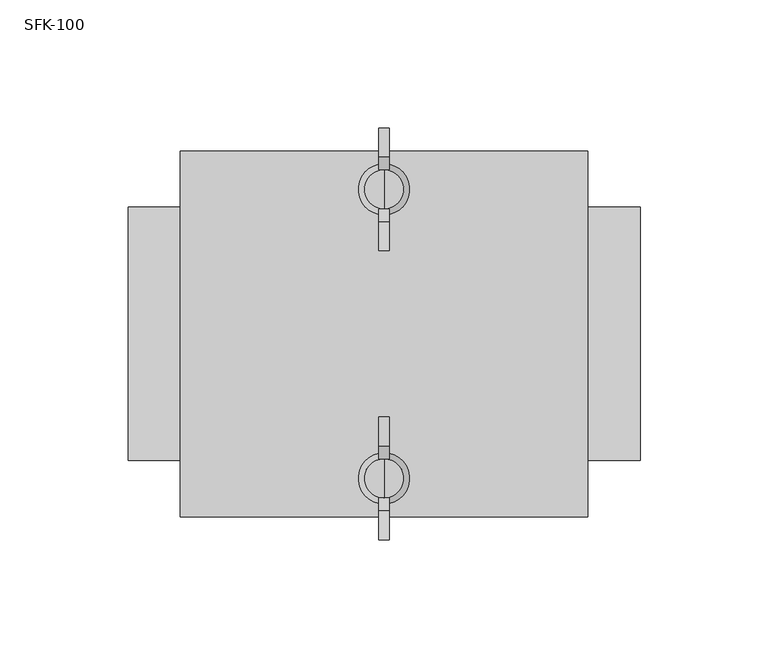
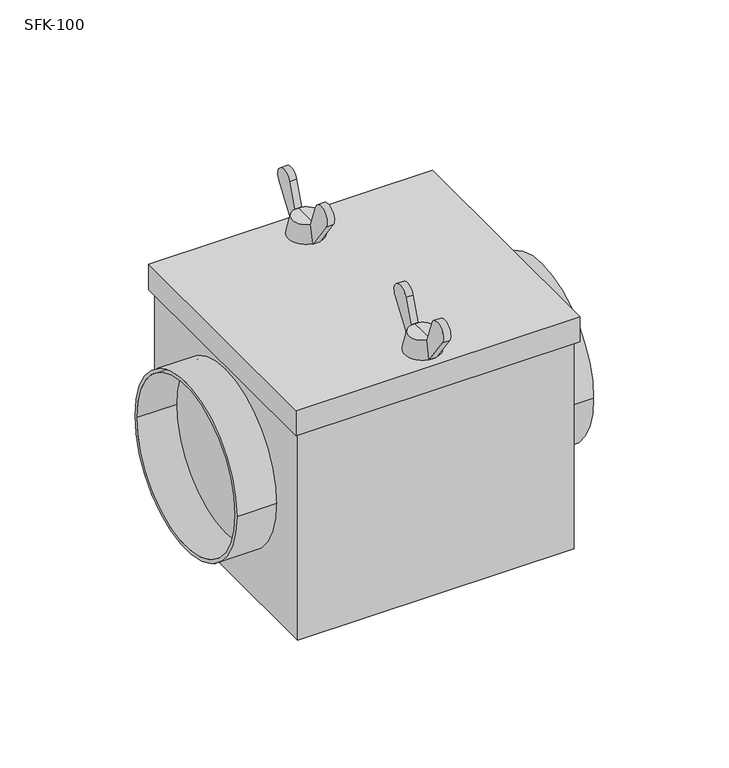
"""IFC4 building model written with IfcOpenShell, lengths in millimetres: damper geometry, СВ_ФильтрКассетный_КанальныйКруглый_DN100-315_SFK : SFK-100."""

from ifc_helpers import new_model, si_unit, point, frame, frame_2d, origin, origin_2d, place, context, project, spatial, polyline, circle_curve, trimmed, segment, composite_curve, outline, extrude, source, transform, mapped, element, save
from ifc_brep_helpers import plane_surface, revolved_surface, advanced_brep


def sfk_100_f7b83489(model_context):
    return source(origin(), model_context, "Body", "SolidModel", [
        extrude(outline(composite_curve([segment(polyline([(-33.6098085, 86.7418266), (-46.5, 69.0), (-48.8086819, 79.0), (-43.983336, 92.257529)]), True, "CONTINUOUS"), segment(trimmed(circle_curve(frame_2d((-38.4089815, 90.2286299)), 5.9321041), [point((-43.983336, 92.257529))], [point((-33.6098085, 86.7418266))], False, "CARTESIAN"), True, "CONTINUOUS")], self_intersect=False)), frame((-2.0, 0.0, 0.0), z_axis=(1.0, 0.0, 0.0), x_axis=(0.0, 1.0, 0.0)), (0.0, 0.0, 1.0), 4.0),
        extrude(outline(composite_curve([segment(trimmed(circle_curve(frame_2d((-74.5910185, 90.2286299)), 5.9321041), [point((-79.3901915, 86.7418266))], [point((-69.016664, 92.257529))], False, "CARTESIAN"), True, "CONTINUOUS"), segment(polyline([(-69.016664, 92.257529), (-64.1913181, 79.0), (-66.5, 69.0), (-79.3901915, 86.7418266)]), True, "CONTINUOUS")], self_intersect=False)), frame((-2.0, 0.0, 0.0), z_axis=(1.0, 0.0, 0.0), x_axis=(0.0, 1.0, 0.0)), (0.0, 0.0, 1.0), 4.0),
        advanced_brep(
        [(0.0, -64.1913181, 79.0), (0.0, -48.8086819, 79.0), (0.0, -46.5, 69.0), (0.0, -66.5, 69.0), (0.0, -56.5, 79.0), (0.0, -56.5, 69.0)],
        [
            (0, 1, circle_curve(frame((0.0, -56.5, 79.0), z_axis=(0.0, 0.0, -1.0), x_axis=(0.0, 1.0, 0.0)), 7.6913181)),
            (1, 2),
            (2, 3, circle_curve(frame((0.0, -56.5, 69.0), z_axis=(0.0, 0.0, 1.0), x_axis=(0.0, 1.0, 0.0)), 10.0)),
            (3, 0),
            (1, 0, circle_curve(frame((0.0, -56.5, 79.0), z_axis=(0.0, 0.0, -1.0), x_axis=(0.0, 1.0, 0.0)), 7.6913181)),
            (3, 2, circle_curve(frame((0.0, -56.5, 69.0), z_axis=(0.0, 0.0, 1.0), x_axis=(0.0, 1.0, 0.0)), 10.0)),
            (4, 1),
            (0, 4),
            (2, 5),
            (5, 3),
        ],
        [
            revolved_surface(polyline([(0.0, -46.5, 69.0), (0.0, -48.8086819, 79.0)]), (0.0, -56.5, 69.0), (0.0, 0.0, 1.0)),
            plane_surface(frame((0.0, -56.5, 79.0), z_axis=(0.0, 0.0, 1.0), x_axis=(0.0, 1.0, 0.0))),
            plane_surface(frame((0.0, -56.5, 69.0), z_axis=(0.0, 0.0, -1.0), x_axis=(0.0, 1.0, 0.0))),
        ],
        [
            (0, [[1, 2, 3, 4]]),
            (0, [[5, -4, 6, -2]]),
            (1, [[7, -1, 8]]),
            (1, [[-8, -5, -7]]),
            (2, [[-3, 9, 10]]),
            (2, [[-6, -10, -9]]),
        ],
    ),
        extrude(outline(composite_curve([segment(polyline([(79.3901915, 86.7418266), (66.5, 69.0), (64.1913181, 79.0), (69.016664, 92.257529)]), True, "CONTINUOUS"), segment(trimmed(circle_curve(frame_2d((74.5910185, 90.2286299)), 5.9321041), [point((69.016664, 92.257529))], [point((79.3901915, 86.7418266))], False, "CARTESIAN"), True, "CONTINUOUS")], self_intersect=False)), frame((-2.0, 0.0, 0.0), z_axis=(1.0, 0.0, 0.0), x_axis=(0.0, 1.0, 0.0)), (0.0, 0.0, 1.0), 4.0),
        extrude(outline(composite_curve([segment(trimmed(circle_curve(frame_2d((38.4089815, 90.2286299)), 5.9321041), [point((33.6098085, 86.7418266))], [point((43.983336, 92.257529))], False, "CARTESIAN"), True, "CONTINUOUS"), segment(polyline([(43.983336, 92.257529), (48.8086819, 79.0), (46.5, 69.0), (33.6098085, 86.7418266)]), True, "CONTINUOUS")], self_intersect=False)), frame((-2.0, 0.0, 0.0), z_axis=(1.0, 0.0, 0.0), x_axis=(0.0, 1.0, 0.0)), (0.0, 0.0, 1.0), 4.0),
        advanced_brep(
        [(0.0, 48.8086819, 79.0), (0.0, 64.1913181, 79.0), (0.0, 66.5, 69.0), (0.0, 46.5, 69.0), (0.0, 56.5, 79.0), (0.0, 56.5, 69.0)],
        [
            (0, 1, circle_curve(frame((0.0, 56.5, 79.0), z_axis=(0.0, 0.0, -1.0), x_axis=(0.0, 1.0, 0.0)), 7.6913181)),
            (1, 2),
            (2, 3, circle_curve(frame((0.0, 56.5, 69.0), z_axis=(0.0, 0.0, 1.0), x_axis=(0.0, 1.0, 0.0)), 10.0)),
            (3, 0),
            (1, 0, circle_curve(frame((0.0, 56.5, 79.0), z_axis=(0.0, 0.0, -1.0), x_axis=(0.0, 1.0, 0.0)), 7.6913181)),
            (3, 2, circle_curve(frame((0.0, 56.5, 69.0), z_axis=(0.0, 0.0, 1.0), x_axis=(0.0, 1.0, 0.0)), 10.0)),
            (4, 1),
            (0, 4),
            (2, 5),
            (5, 3),
        ],
        [
            revolved_surface(polyline([(0.0, 66.5, 69.0), (0.0, 64.1913181, 79.0)]), (0.0, 56.5, 69.0), (0.0, 0.0, 1.0)),
            plane_surface(frame((0.0, 56.5, 79.0), z_axis=(0.0, 0.0, 1.0), x_axis=(0.0, 1.0, 0.0))),
            plane_surface(frame((0.0, 56.5, 69.0), z_axis=(0.0, 0.0, -1.0), x_axis=(0.0, 1.0, 0.0))),
        ],
        [
            (0, [[1, 2, 3, 4]]),
            (0, [[5, -4, 6, -2]]),
            (1, [[7, -1, 8]]),
            (1, [[-8, -5, -7]]),
            (2, [[-3, 9, 10]]),
            (2, [[-6, -10, -9]]),
        ],
    ),
        extrude(outline(polyline([(-79.5, 71.5), (79.5, 71.5), (79.5, -71.5), (-79.5, -71.5), (-79.5, 71.5)])), frame((0.0, 0.0, 54.0), z_axis=(0.0, 0.0, 1.0), x_axis=(1.0, 0.0, 0.0)), (0.0, 0.0, 1.0), 15.0),
        extrude(outline(polyline([(77.5, -69.5), (-77.5, -69.5), (-77.5, 69.5), (77.5, 69.5), (77.5, -69.5)])), frame((0.0, 0.0, -69.0), z_axis=(0.0, 0.0, 1.0), x_axis=(1.0, 0.0, 0.0)), (0.0, 0.0, 1.0), 123.0),
        extrude(outline(composite_curve([segment(trimmed(circle_curve(origin_2d(), 49.5), [point((-49.5, 0.0))], [point((49.5, 0.0))], False, "CARTESIAN"), True, "CONTINUOUS"), segment(trimmed(circle_curve(origin_2d(), 49.5), [point((49.5, 0.0))], [point((-49.5, 0.0))], False, "CARTESIAN"), True, "CONTINUOUS")], self_intersect=False), holes=[composite_curve([segment(trimmed(circle_curve(origin_2d(), 47.5), [point((-47.5, 0.0))], [point((47.5, 0.0))], True, "CARTESIAN"), True, "CONTINUOUS"), segment(trimmed(circle_curve(origin_2d(), 47.5), [point((47.5, 0.0))], [point((-47.5, 0.0))], True, "CARTESIAN"), True, "CONTINUOUS")], self_intersect=False)]), frame((-100.0, 0.0, 0.0), z_axis=(1.0, 0.0, 0.0), x_axis=(0.0, 1.0, 0.0)), (0.0, 0.0, 1.0), 22.5),
        extrude(outline(composite_curve([segment(trimmed(circle_curve(origin_2d(), 49.5), [point((-49.5, 0.0))], [point((49.5, 0.0))], False, "CARTESIAN"), True, "CONTINUOUS"), segment(trimmed(circle_curve(origin_2d(), 49.5), [point((49.5, 0.0))], [point((-49.5, 0.0))], False, "CARTESIAN"), True, "CONTINUOUS")], self_intersect=False), holes=[composite_curve([segment(trimmed(circle_curve(origin_2d(), 47.5), [point((-47.5, 0.0))], [point((47.5, 0.0))], True, "CARTESIAN"), True, "CONTINUOUS"), segment(trimmed(circle_curve(origin_2d(), 47.5), [point((47.5, 0.0))], [point((-47.5, 0.0))], True, "CARTESIAN"), True, "CONTINUOUS")], self_intersect=False)]), frame((77.5, 0.0, 0.0), z_axis=(1.0, 0.0, 0.0), x_axis=(0.0, 1.0, 0.0)), (0.0, 0.0, 1.0), 22.5),
    ])


if __name__ == "__main__":
    model = new_model("IFC4")
    model_context = context("Model", 3, world=origin())
    ifc_project = project(units=[si_unit("LENGTHUNIT", "METRE", prefix="MILLI")], contexts=[model_context])
    site = spatial("IfcSite", under=ifc_project)
    building = spatial("IfcBuilding", under=site)
    placement = place(None, origin())
    sfk_100_shape = sfk_100_f7b83489(model_context)
    element("IfcDamper", 1, ObjectType="СВ_ФильтрКассетный_КанальныйКруглый_DN100-315_SFK : SFK-100", at=placement, inside=building, context=model_context, shape_type="MappedRepresentation", body=[
        mapped(sfk_100_shape, transform((0.0, 0.0, 0.0), x_axis=(1.0, 0.0, 0.0), y_axis=(0.0, 1.0, 0.0), z_axis=(0.0, 0.0, 1.0))),
    ])
    save(model, "model.ifc")
